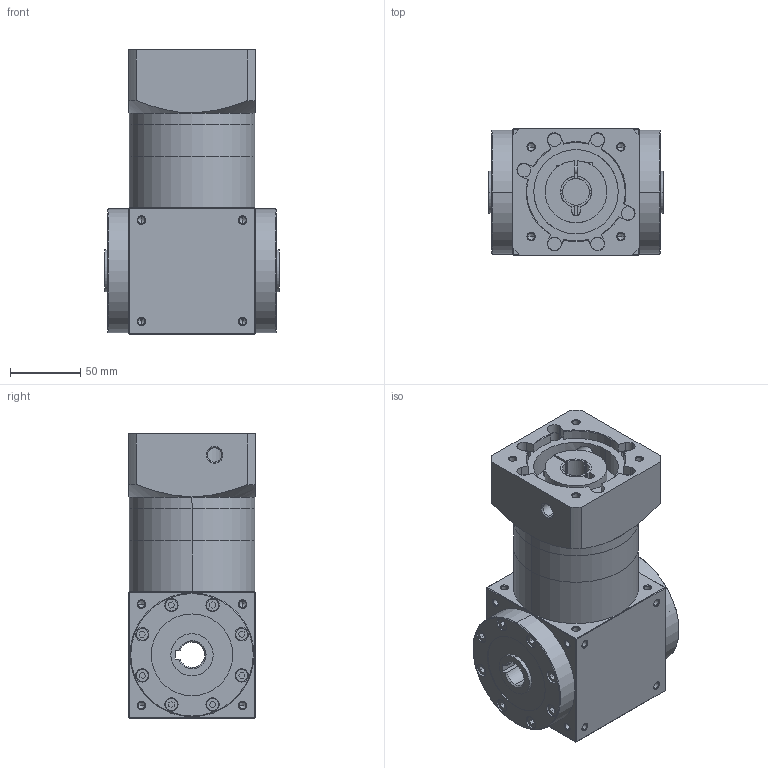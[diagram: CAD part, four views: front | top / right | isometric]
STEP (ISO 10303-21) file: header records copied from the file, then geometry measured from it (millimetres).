
FILE_DESCRIPTION (( 'STEP AP203' ), '1' );
FILE_NAME ('AT090FH-L2-(A)-S2-P2-19-70-90M5.STEP', '2025-04-30T02:12:13', ( 'Windows User' ), ( 'P R C' ), 'SwSTEP 2.0', 'SolidWorks 2016', '' );
FILE_SCHEMA (( 'CONFIG_CONTROL_DESIGN' ));
Length unit declared in the file: millimetre
Products named in the file (6): 输入胀套-22; AT090FH-L2-(A)-S2-P2-19-70-90M5; AT90-蛌褒眊极-謂-怀堤; AT90-蛌倰怀堤楊擘; AT90-单级齿圈; AT90-输入法兰-B-70-M6-90
Assembly tree (5 placements, depth 2):
  AT090FH-L2-(A)-S2-P2-19-70-90M5
    AT90-蛌褒眊极-謂-怀堤
    AT90-蛌倰怀堤楊擘
    AT90-单级齿圈
    AT90-输入法兰-B-70-M6-90
    输入胀套-22
Bounding box: 124 x 90 x 202 mm (x, y, z)
Volume: 1233747.5 mm3; surface area: 212258.7 mm2
Topology: 5 solids, 17 shells, 1507 faces, 3844 edges, 2431 vertices
Faces by surface type: plane 755, cylinder 314, cone 235, bspline 203
Entity records: 54713 total; most frequent: CARTESIAN_POINT 19466, ORIENTED_EDGE 7504, DIRECTION 6449, EDGE_CURVE 3752, LINE 2445, VECTOR 2445, VERTEX_POINT 2431, AXIS2_PLACEMENT_3D 2002
